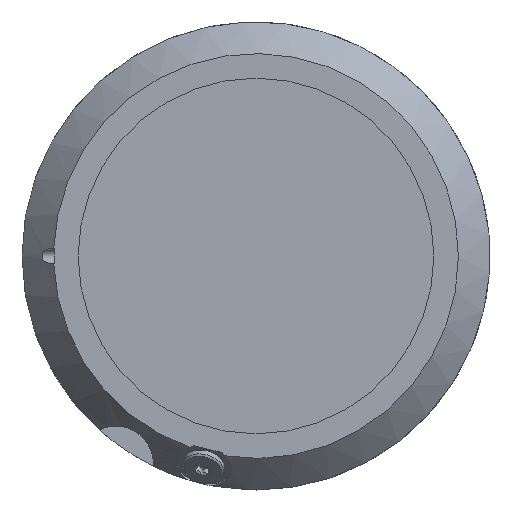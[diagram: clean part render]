
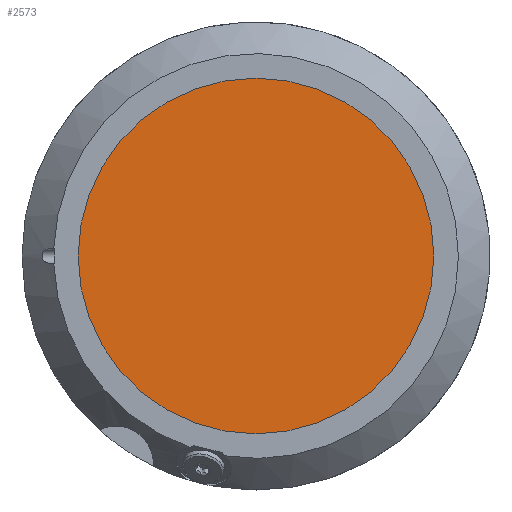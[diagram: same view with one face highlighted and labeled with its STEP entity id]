
A CAD part, left-side view. The second image highlights one B-rep face of the part: STEP entity #2573.
In plain terms, the highlighted planar face has unit normal (-1, 0, 0).
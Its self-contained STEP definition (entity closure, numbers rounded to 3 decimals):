
#187 = VERTEX_POINT ( 'NONE', #644 ) ;
#284 = ORIENTED_EDGE ( 'NONE', *, *, #1396, .F. ) ;
#644 = CARTESIAN_POINT ( 'NONE',  ( 2777.5, 76., 2010. ) ) ;
#765 = DIRECTION ( 'NONE',  ( 0., 1., 0. ) ) ;
#1396 = EDGE_CURVE ( 'NONE', #187, #187, #3566, .T. ) ;
#1790 = AXIS2_PLACEMENT_3D ( 'NONE', #2899, #4606, #765 ) ;
#2331 = AXIS2_PLACEMENT_3D ( 'NONE', #2661, #3429, #2604 ) ;
#2573 = ADVANCED_FACE ( 'NONE', ( #3055 ), #5137, .T. ) ;
#2604 = DIRECTION ( 'NONE',  ( 0., -1., 0. ) ) ;
#2661 = CARTESIAN_POINT ( 'NONE',  ( 2777.5, 0., 2086. ) ) ;
#2899 = CARTESIAN_POINT ( 'NONE',  ( 2777.5, 0., 2010. ) ) ;
#3055 = FACE_OUTER_BOUND ( 'NONE', #3778, .T. ) ;
#3429 = DIRECTION ( 'NONE',  ( -1., 0., 0. ) ) ;
#3566 = CIRCLE ( 'NONE', #1790, 76. ) ;
#3778 = EDGE_LOOP ( 'NONE', ( #284 ) ) ;
#4606 = DIRECTION ( 'NONE',  ( 1., 0., 0. ) ) ;
#5137 = PLANE ( 'NONE',  #2331 ) ;
